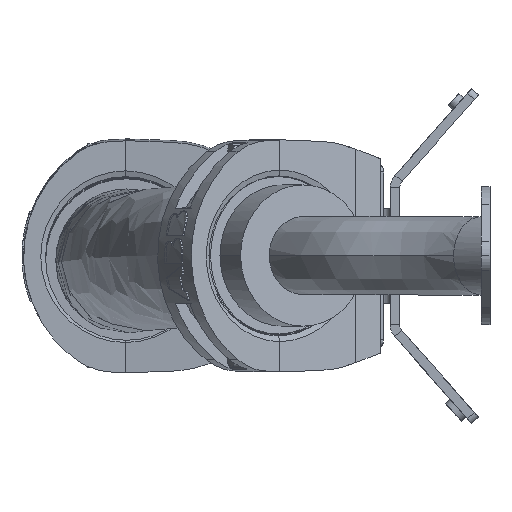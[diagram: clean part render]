
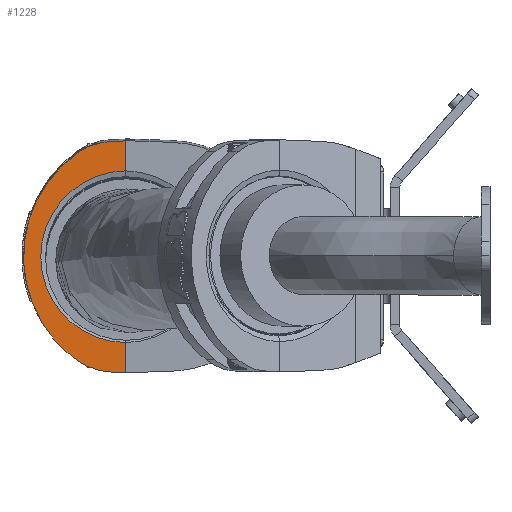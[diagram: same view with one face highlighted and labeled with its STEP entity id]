
A CAD part, left-side view. The second image highlights one B-rep face of the part: STEP entity #1228.
In plain terms, the highlighted planar face has unit normal (-0.999, -0.035, -0.028).
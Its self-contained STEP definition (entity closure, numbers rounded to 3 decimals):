
#216 = CARTESIAN_POINT ( 'NONE',  ( 1444.784, 338.071, 2597.615 ) ) ;
#465 = ORIENTED_EDGE ( 'NONE', *, *, #20723, .T. ) ;
#1047 = VECTOR ( 'NONE', #4685, 1000. ) ;
#1228 = ADVANCED_FACE ( 'NONE', ( #15264 ), #14910, .F. ) ;
#1882 = VECTOR ( 'NONE', #14841, 1000. ) ;
#1905 = CARTESIAN_POINT ( 'NONE',  ( 1445.049, 330.259, 2597.895 ) ) ;
#1945 = EDGE_CURVE ( 'NONE', #22739, #18083, #12695, .T. ) ;
#2868 = DIRECTION ( 'NONE',  ( 0.028, 0., -1. ) ) ;
#3508 = CARTESIAN_POINT ( 'NONE',  ( 1444.498, 351.874, 2590.62 ) ) ;
#3581 =( BOUNDED_CURVE ( )  B_SPLINE_CURVE ( 3, ( #21332, #216, #5186, #19582 ),
 .UNSPECIFIED., .F., .T. ) 
 B_SPLINE_CURVE_WITH_KNOTS ( ( 4, 4 ),
 ( 1.606, 2.184 ),
 .UNSPECIFIED. ) 
 CURVE ( )  GEOMETRIC_REPRESENTATION_ITEM ( )  RATIONAL_B_SPLINE_CURVE ( ( 1., 0.972, 0.972, 1. ) ) 
 REPRESENTATION_ITEM ( '' )  );
#3843 = ORIENTED_EDGE ( 'NONE', *, *, #4794, .T. ) ;
#4099 = LINE ( 'NONE', #11149, #1882 ) ;
#4275 = CARTESIAN_POINT ( 'NONE',  ( 1445.89, 321.276, 2579.162 ) ) ;
#4685 = DIRECTION ( 'NONE',  ( -0.034, 0.999, -0.036 ) ) ;
#4794 = EDGE_CURVE ( 'NONE', #10458, #9569, #7688, .T. ) ;
#4864 = DIRECTION ( 'NONE',  ( 0.999, 0.035, 0.028 ) ) ;
#5186 = CARTESIAN_POINT ( 'NONE',  ( 1444.595, 345.481, 2595.121 ) ) ;
#5538 = EDGE_LOOP ( 'NONE', ( #19768, #22660, #6049, #11133, #10736, #465, #10549, #3843 ) ) ;
#5787 = CARTESIAN_POINT ( 'NONE',  ( 1448.573, 345.481, 2453.675 ) ) ;
#6049 = ORIENTED_EDGE ( 'NONE', *, *, #14377, .F. ) ;
#6858 = DIRECTION ( 'NONE',  ( 0., 0.627, -0.779 ) ) ;
#7688 =( BOUNDED_CURVE ( )  B_SPLINE_CURVE ( 3, ( #3508, #10545, #17587, #8808 ),
 .UNSPECIFIED., .F., .T. ) 
 B_SPLINE_CURVE_WITH_KNOTS ( ( 4, 4 ),
 ( 2.184, 4.099 ),
 .UNSPECIFIED. ) 
 CURVE ( )  GEOMETRIC_REPRESENTATION_ITEM ( )  RATIONAL_B_SPLINE_CURVE ( ( 1., 0.717, 0.717, 1. ) ) 
 REPRESENTATION_ITEM ( '' )  );
#7737 = LINE ( 'NONE', #18211, #9535 ) ;
#7985 = VERTEX_POINT ( 'NONE', #20293 ) ;
#8461 = VERTEX_POINT ( 'NONE', #1905 ) ;
#8548 = AXIS2_PLACEMENT_3D ( 'NONE', #9501, #22701, #12313 ) ;
#8808 = CARTESIAN_POINT ( 'NONE',  ( 1448.223, 351.874, 2458.163 ) ) ;
#9373 = VERTEX_POINT ( 'NONE', #21028 ) ;
#9501 = CARTESIAN_POINT ( 'NONE',  ( 1447.454, 320.558, 2524.422 ) ) ;
#9535 = VECTOR ( 'NONE', #16493, 1000. ) ;
#9569 = VERTEX_POINT ( 'NONE', #19831 ) ;
#10458 = VERTEX_POINT ( 'NONE', #20380 ) ;
#10545 = CARTESIAN_POINT ( 'NONE',  ( 1443.735, 402.273, 2555.138 ) ) ;
#10549 = ORIENTED_EDGE ( 'NONE', *, *, #18743, .T. ) ;
#10736 = ORIENTED_EDGE ( 'NONE', *, *, #1945, .F. ) ;
#11116 = CIRCLE ( 'NONE', #8548, 54.766 ) ;
#11133 = ORIENTED_EDGE ( 'NONE', *, *, #11556, .T. ) ;
#11149 = CARTESIAN_POINT ( 'NONE',  ( 1449.501, 321.343, 2450.628 ) ) ;
#11556 = EDGE_CURVE ( 'NONE', #20725, #18083, #11116, .T. ) ;
#12075 = CARTESIAN_POINT ( 'NONE',  ( 1443.285, 382.265, 2596.029 ) ) ;
#12313 = DIRECTION ( 'NONE',  ( -0.035, 0.999, -0.001 ) ) ;
#12695 = LINE ( 'NONE', #21891, #21498 ) ;
#12788 = CARTESIAN_POINT ( 'NONE',  ( 1445.354, 321.276, 2598.218 ) ) ;
#12792 = CARTESIAN_POINT ( 'NONE',  ( 1449.181, 330.259, 2450.93 ) ) ;
#12914 = CARTESIAN_POINT ( 'NONE',  ( 1448.901, 338.071, 2451.195 ) ) ;
#14377 = EDGE_CURVE ( 'NONE', #20725, #7985, #7737, .T. ) ;
#14394 = EDGE_CURVE ( 'NONE', #9569, #9373, #18456, .T. ) ;
#14841 = DIRECTION ( 'NONE',  ( -0.036, 0.999, 0.034 ) ) ;
#14910 = PLANE ( 'NONE',  #16056 ) ;
#15264 = FACE_OUTER_BOUND ( 'NONE', #5538, .T. ) ;
#15495 = CARTESIAN_POINT ( 'NONE',  ( 1448.32, 376.276, 2424.407 ) ) ;
#16056 = AXIS2_PLACEMENT_3D ( 'NONE', #15495, #4864, #6858 ) ;
#16385 = CARTESIAN_POINT ( 'NONE',  ( 1448.223, 351.874, 2458.163 ) ) ;
#16493 = DIRECTION ( 'NONE',  ( 0.028, 0., -1. ) ) ;
#17383 = CARTESIAN_POINT ( 'NONE',  ( 1448.968, 321.276, 2469.682 ) ) ;
#17587 = CARTESIAN_POINT ( 'NONE',  ( 1445.467, 402.273, 2493.546 ) ) ;
#18083 = VERTEX_POINT ( 'NONE', #4275 ) ;
#18211 = CARTESIAN_POINT ( 'NONE',  ( 1449.504, 321.276, 2450.625 ) ) ;
#18456 =( BOUNDED_CURVE ( )  B_SPLINE_CURVE ( 3, ( #16385, #5787, #12914, #12792 ),
 .UNSPECIFIED., .F., .T. ) 
 B_SPLINE_CURVE_WITH_KNOTS ( ( 4, 4 ),
 ( 4.099, 4.677 ),
 .UNSPECIFIED. ) 
 CURVE ( )  GEOMETRIC_REPRESENTATION_ITEM ( )  RATIONAL_B_SPLINE_CURVE ( ( 1., 0.972, 0.972, 1. ) ) 
 REPRESENTATION_ITEM ( '' )  );
#18743 = EDGE_CURVE ( 'NONE', #8461, #10458, #3581, .T. ) ;
#18756 = LINE ( 'NONE', #12075, #1047 ) ;
#19582 = CARTESIAN_POINT ( 'NONE',  ( 1444.498, 351.874, 2590.62 ) ) ;
#19768 = ORIENTED_EDGE ( 'NONE', *, *, #14394, .T. ) ;
#19831 = CARTESIAN_POINT ( 'NONE',  ( 1448.223, 351.874, 2458.163 ) ) ;
#20293 = CARTESIAN_POINT ( 'NONE',  ( 1449.504, 321.276, 2450.625 ) ) ;
#20380 = CARTESIAN_POINT ( 'NONE',  ( 1444.498, 351.874, 2590.62 ) ) ;
#20723 = EDGE_CURVE ( 'NONE', #22739, #8461, #18756, .T. ) ;
#20725 = VERTEX_POINT ( 'NONE', #17383 ) ;
#21028 = CARTESIAN_POINT ( 'NONE',  ( 1449.181, 330.259, 2450.93 ) ) ;
#21332 = CARTESIAN_POINT ( 'NONE',  ( 1445.049, 330.259, 2597.895 ) ) ;
#21498 = VECTOR ( 'NONE', #2868, 1000. ) ;
#21891 = CARTESIAN_POINT ( 'NONE',  ( 1449.504, 321.276, 2450.625 ) ) ;
#22004 = EDGE_CURVE ( 'NONE', #7985, #9373, #4099, .T. ) ;
#22660 = ORIENTED_EDGE ( 'NONE', *, *, #22004, .F. ) ;
#22701 = DIRECTION ( 'NONE',  ( 0.999, 0.035, 0.028 ) ) ;
#22739 = VERTEX_POINT ( 'NONE', #12788 ) ;
